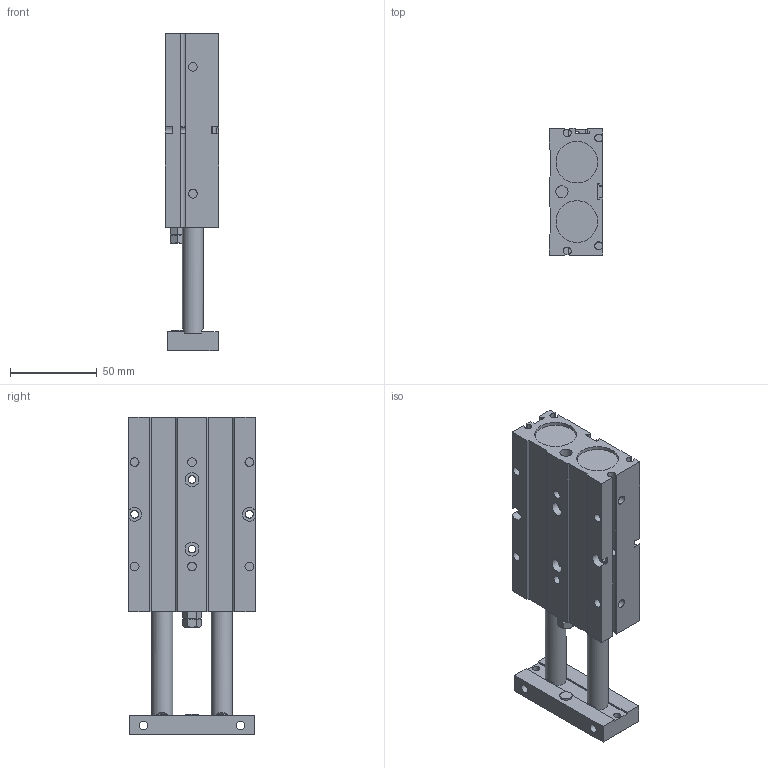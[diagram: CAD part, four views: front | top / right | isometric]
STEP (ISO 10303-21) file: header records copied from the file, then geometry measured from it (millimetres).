
FILE_DESCRIPTION((''),'2;1');
FILE_NAME('I:\3D電子目錄\氣缸\TD\TD25\TD25\TD25x50.stp','2007-08-06T09:53:16',('Administrator'),(''),'Autodesk Inventor 2008','Autodesk Inventor 2008','');
FILE_SCHEMA(('AUTOMOTIVE_DESIGN { 1 0 10303 214 1 1 1 1 }'));
Length unit declared in the file: millimetre
Products named in the file (1): TD25X50
Bounding box: 31 x 73 x 183 mm (x, y, z)
Volume: 263727.9 mm3; surface area: 50386.5 mm2
Topology: 1 solids, 3 shells, 197 faces, 494 edges, 324 vertices
Faces by surface type: plane 132, cylinder 52, cone 7, bspline 4, torus 2
Full cylindrical faces by diameter (mm): 4 x2, 4.5 x4, 5 x10, 7 x2, 8 x4, 10 x2, 11 x2, 12 x4, 24 x4
Entity records: 6021 total; most frequent: CARTESIAN_POINT 1449, DIRECTION 915, ORIENTED_EDGE 878, EDGE_CURVE 439, VERTEX_POINT 314, AXIS2_PLACEMENT_3D 312, VECTOR 291, LINE 291
